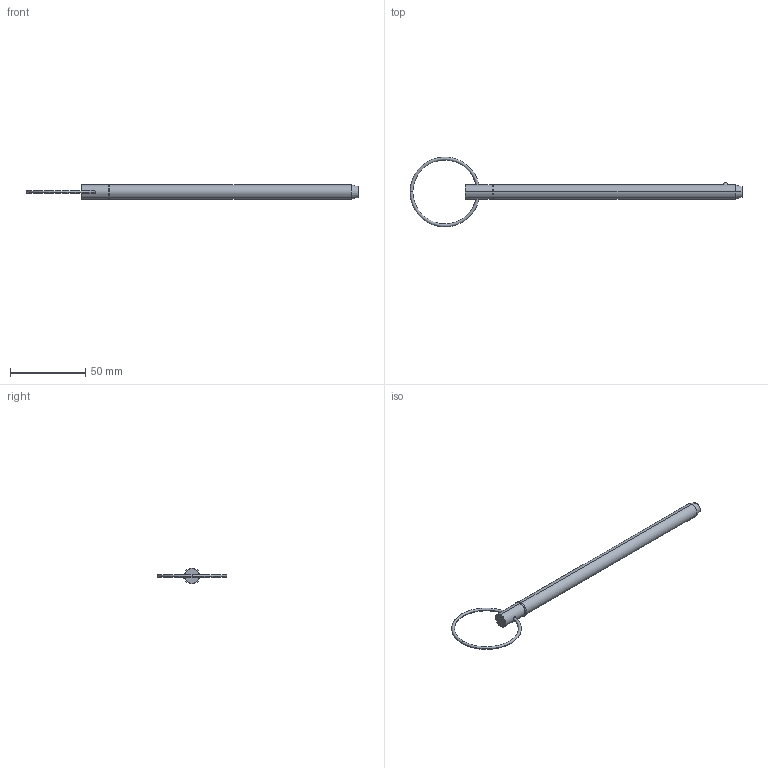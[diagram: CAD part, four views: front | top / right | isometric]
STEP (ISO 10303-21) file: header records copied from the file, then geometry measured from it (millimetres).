
FILE_DESCRIPTION (( 'STEP AP203' ), '1' );
FILE_NAME ('33016.W3760.step', '2024-11-07T11:06:31', ( '' ), ( '' ), 'SwSTEP 2.0', 'SolidWorks 2019', '' );
FILE_SCHEMA (( 'CONFIG_CONTROL_DESIGN' ));
Length unit declared in the file: millimetre
Products named in the file (3): 33016.W3760; Part2_33016.W3760; Part1_33016.W3760
Assembly tree (2 placements, depth 2):
  33016.W3760
    Part1_33016.W3760
    Part2_33016.W3760
Bounding box: 220.73 x 46.36 x 10.48 mm (x, y, z)
Volume: 13440.8 mm3; surface area: 6549.3 mm2
Topology: 2 solids, 2 shells, 22 faces, 43 edges, 26 vertices
Faces by surface type: torus 8, cylinder 6, plane 4, sphere 2, cone 2
Entity records: 1003 total; most frequent: CARTESIAN_POINT 226, DIRECTION 120, ORIENTED_EDGE 86, AXIS2_PLACEMENT_3D 56, EDGE_CURVE 43, CIRCLE 29, EDGE_LOOP 27, PERSON_AND_ORGANIZATION 26
